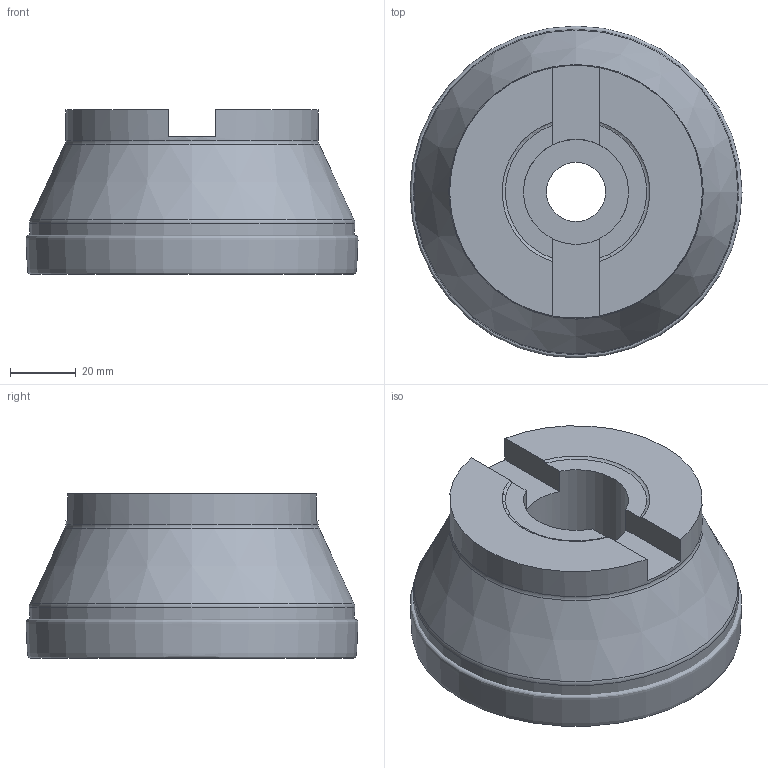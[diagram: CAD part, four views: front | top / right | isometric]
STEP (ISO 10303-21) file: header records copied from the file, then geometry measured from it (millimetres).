
FILE_DESCRIPTION(/* description */ (''),/* implementation_level */ '2;1');
FILE_NAME(/* name */ 'R220.88-0100-12-8SAP_Basic.stp',/* time_stamp */ '2022-05-12T13:48:50+05:00',/* author */ (''),/* organization */ (''),/* preprocessor_version */ 'ST-DEVELOPER v16.7',/* originating_system */ 'SIEMENS PLM Software NX 12.0',/* authorisation */ '');
FILE_SCHEMA (('AUTOMOTIVE_DESIGN { 1 0 10303 214 3 1 1 1 }'));
Length unit declared in the file: millimetre
Products named in the file (4): CUT; NOCUT; ASSEMBLY_CONSTRUCTION; inpuCC44630Fisxj
Assembly tree (3 placements, depth 2):
  inpuCC44630Fisxj
    ASSEMBLY_CONSTRUCTION
    NOCUT
    CUT
Bounding box: 101.13 x 101.12 x 49.99 mm (x, y, z)
Volume: 304845.1 mm3; surface area: 43129.2 mm2
Topology: 2 solids, 2 shells, 25 faces, 66 edges, 58 vertices
Faces by surface type: plane 12, torus 5, cylinder 4, cone 3, revolution 1
Full cylindrical faces by diameter (mm): 18 x1, 27 x1, 32 x1, 77 x1
Entity records: 1391 total; most frequent: CARTESIAN_POINT 529, DIRECTION 165, ORIENTED_EDGE 94, AXIS2_PLACEMENT_3D 72, EDGE_CURVE 47, STYLED_ITEM 39, PRESENTATION_STYLE_ASSIGNMENT 39, EDGE_LOOP 36
